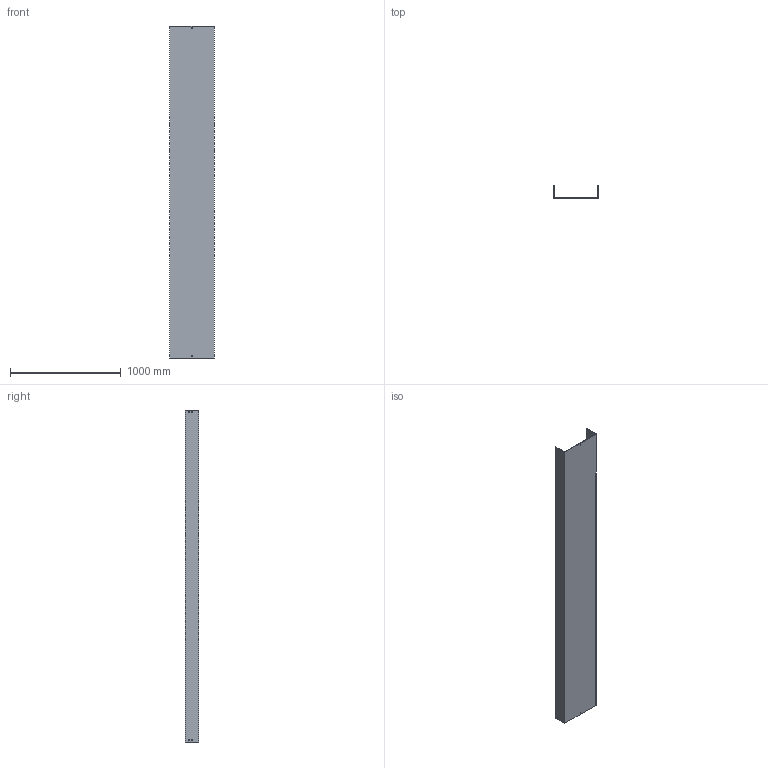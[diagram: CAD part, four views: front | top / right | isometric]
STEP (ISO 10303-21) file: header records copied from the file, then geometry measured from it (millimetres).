
FILE_DESCRIPTION (( 'STEP AP214' ), '1' );
FILE_NAME ('03B3J400.step', '2025-02-21T10:09:11', ( '' ), ( '' ), 'SwSTEP 2.0', 'SolidWorks 2023', '' );
FILE_SCHEMA (( 'AUTOMOTIVE_DESIGN' ));
Length unit declared in the file: millimetre
Products named in the file (1): 03B3J400
Bounding box: 404 x 117.5 x 3000 mm (x, y, z)
Volume: 6633630.5 mm3; surface area: 3817239 mm2
Topology: 1 solids, 1 shells, 50 faces, 144 edges, 96 vertices
Faces by surface type: plane 50
Entity records: 1671 total; most frequent: CARTESIAN_POINT 291, ORIENTED_EDGE 288, DIRECTION 246, VECTOR 144, EDGE_CURVE 144, LINE 144, VERTEX_POINT 96, EDGE_LOOP 70
